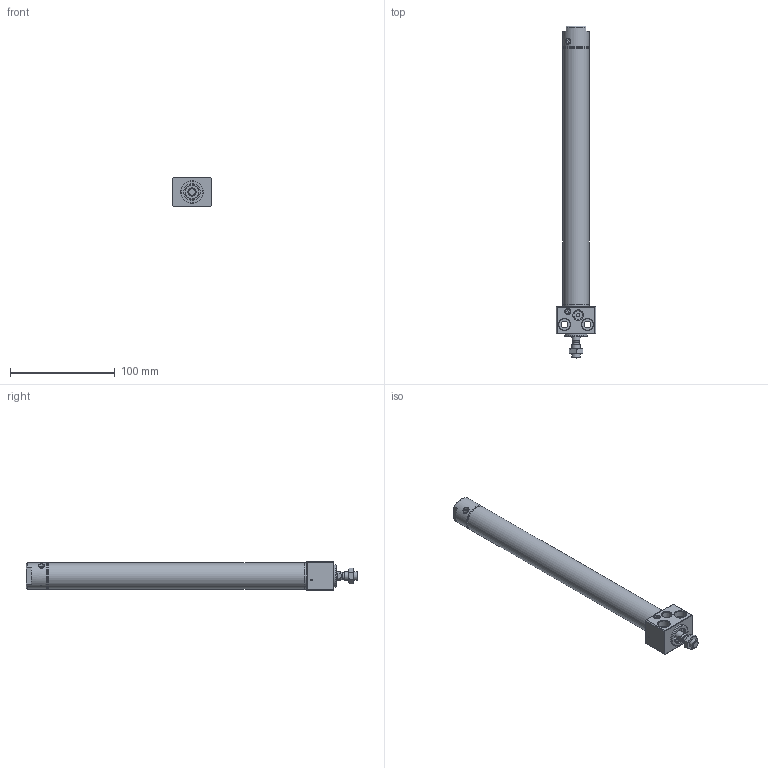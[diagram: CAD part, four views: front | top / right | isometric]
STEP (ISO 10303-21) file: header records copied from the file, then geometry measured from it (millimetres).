
FILE_DESCRIPTION((''),'2;1');
FILE_NAME('I:\3D電子目錄\氣缸\DBS\DBS\DBS20x200-C.stp','2007-10-08T08:31:35',('Administrator'),(''),'Autodesk Inventor 2008','Autodesk Inventor 2008','');
FILE_SCHEMA(('AUTOMOTIVE_DESIGN { 1 0 10303 214 1 1 1 1 }'));
Length unit declared in the file: millimetre
Products named in the file (1): DBS20x200-C
Bounding box: 38 x 317.6 x 28 mm (x, y, z)
Volume: 81976 mm3; surface area: 51501.1 mm2
Topology: 8 solids, 8 shells, 206 faces, 422 edges, 260 vertices
Faces by surface type: plane 91, cone 50, cylinder 49, bspline 13, torus 3
Full cylindrical faces by diameter (mm): 1.2 x1, 1.9 x2, 3 x3, 3.3 x2, 4.6 x2, 5 x3, 6 x4, 8 x3, 8.5 x1, 10 x1, 10.5 x2, 12 x3, 14.5 x2, 16 x2, 17 x1, 18 x2, 20 x1, 20.2 x2, 22 x1, 22.2 x6, 25 x4
Entity records: 5331 total; most frequent: CARTESIAN_POINT 1411, DIRECTION 818, ORIENTED_EDGE 632, AXIS2_PLACEMENT_3D 362, EDGE_LOOP 351, EDGE_CURVE 316, VERTEX_POINT 245, FACE_OUTER_BOUND 206
